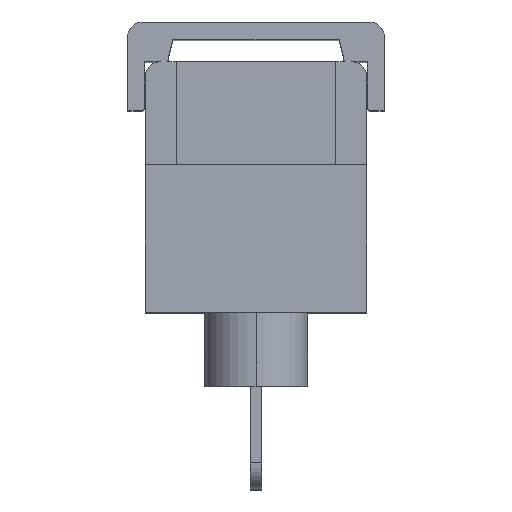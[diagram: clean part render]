
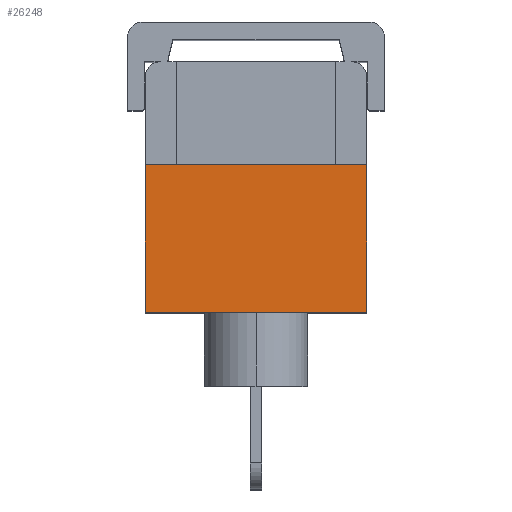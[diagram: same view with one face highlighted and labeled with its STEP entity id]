
A CAD part, top view. The second image highlights one B-rep face of the part: STEP entity #26248.
In plain terms, the highlighted planar face has unit normal (0, 0, 1).
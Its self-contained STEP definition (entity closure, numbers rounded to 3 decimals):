
#71=DIRECTION('',(1.,0.,0.));
#72=VECTOR('',#71,15.);
#73=CARTESIAN_POINT('',(0.,15.,-20.));
#74=LINE('',#73,#72);
#324=DIRECTION('',(0.,1.,0.));
#325=VECTOR('',#324,10.);
#326=CARTESIAN_POINT('',(0.,5.,-20.));
#327=LINE('',#326,#325);
#2825=DIRECTION('',(1.,0.,0.));
#2826=VECTOR('',#2825,15.);
#2827=CARTESIAN_POINT('',(0.,5.,-20.));
#2828=LINE('',#2827,#2826);
#2829=DIRECTION('',(0.,1.,0.));
#2830=VECTOR('',#2829,10.);
#2831=CARTESIAN_POINT('',(15.,5.,-20.));
#2832=LINE('',#2831,#2830);
#20335=CARTESIAN_POINT('',(0.,5.,-20.));
#20336=VERTEX_POINT('',#20335);
#20337=CARTESIAN_POINT('',(15.,5.,-20.));
#20338=VERTEX_POINT('',#20337);
#20387=CARTESIAN_POINT('',(15.,15.,-20.));
#20388=VERTEX_POINT('',#20387);
#20409=CARTESIAN_POINT('',(0.,15.,-20.));
#20410=VERTEX_POINT('',#20409);
#26237=CARTESIAN_POINT('',(7.5,5.,-20.));
#26238=DIRECTION('',(0.,0.,-1.));
#26239=DIRECTION('',(-1.,0.,0.));
#26240=AXIS2_PLACEMENT_3D('',#26237,#26238,#26239);
#26241=PLANE('',#26240);
#26242=ORIENTED_EDGE('',*,*,#22583,.F.);
#26243=ORIENTED_EDGE('',*,*,#22794,.T.);
#26244=ORIENTED_EDGE('',*,*,#22239,.T.);
#26245=ORIENTED_EDGE('',*,*,#26070,.F.);
#26246=EDGE_LOOP('',(#26242,#26243,#26244,#26245));
#26247=FACE_OUTER_BOUND('',#26246,.F.);
#26248=ADVANCED_FACE('',(#26247),#26241,.F.);
#22239=EDGE_CURVE('',#20410,#20388,#74,.T.);
#22583=EDGE_CURVE('',#20336,#20338,#2828,.T.);
#22794=EDGE_CURVE('',#20336,#20410,#327,.T.);
#26070=EDGE_CURVE('',#20338,#20388,#2832,.T.);
